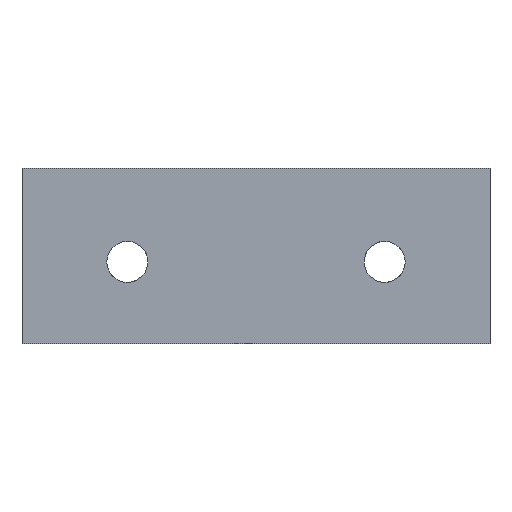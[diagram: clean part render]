
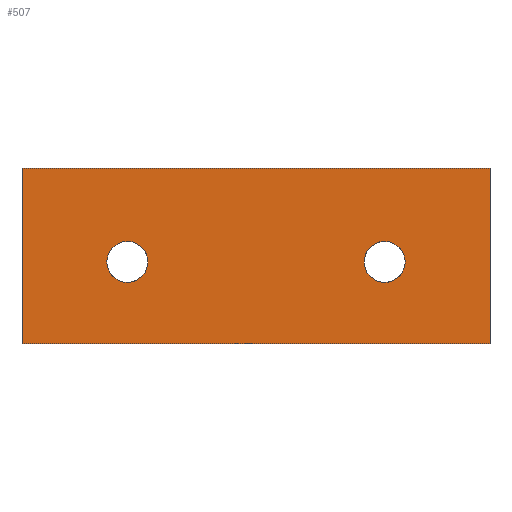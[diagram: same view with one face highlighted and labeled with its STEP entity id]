
A CAD part, left-side view. The second image highlights one B-rep face of the part: STEP entity #507.
In plain terms, the highlighted planar face has unit normal (-1, 0, 0).
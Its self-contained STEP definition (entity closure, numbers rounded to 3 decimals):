
#265=CARTESIAN_POINT('Vertex',(0.,200.,0.)) ;
#272=CARTESIAN_POINT('Vertex',(0.,0.,0.)) ;
#275=CARTESIAN_POINT('Line Origine',(0.,100.,0.)) ;
#292=CARTESIAN_POINT('Line Origine',(0.,200.,37.5)) ;
#296=CARTESIAN_POINT('Vertex',(0.,200.,75.)) ;
#316=CARTESIAN_POINT('Line Origine',(0.,100.,75.)) ;
#320=CARTESIAN_POINT('Vertex',(0.,0.,75.)) ;
#340=CARTESIAN_POINT('Line Origine',(0.,0.,37.5)) ;
#361=CARTESIAN_POINT('Vertex',(0.,155.,43.75)) ;
#364=CARTESIAN_POINT('Axis2P3D Location',(0.,155.,35.)) ;
#368=CARTESIAN_POINT('Vertex',(0.,163.75,35.)) ;
#371=CARTESIAN_POINT('Axis2P3D Location',(0.,155.,35.)) ;
#375=CARTESIAN_POINT('Vertex',(0.,155.,26.25)) ;
#397=CARTESIAN_POINT('Axis2P3D Location',(0.,155.,35.)) ;
#401=CARTESIAN_POINT('Vertex',(0.,146.25,35.)) ;
#404=CARTESIAN_POINT('Axis2P3D Location',(0.,155.,35.)) ;
#427=CARTESIAN_POINT('Vertex',(0.,45.,43.75)) ;
#430=CARTESIAN_POINT('Axis2P3D Location',(0.,45.,35.)) ;
#434=CARTESIAN_POINT('Vertex',(0.,53.75,35.)) ;
#437=CARTESIAN_POINT('Axis2P3D Location',(0.,45.,35.)) ;
#441=CARTESIAN_POINT('Vertex',(0.,45.,26.25)) ;
#463=CARTESIAN_POINT('Axis2P3D Location',(0.,45.,35.)) ;
#467=CARTESIAN_POINT('Vertex',(0.,36.25,35.)) ;
#470=CARTESIAN_POINT('Axis2P3D Location',(0.,45.,35.)) ;
#484=CARTESIAN_POINT('Axis2P3D Location',(0.,200.,75.)) ;
#276=DIRECTION('Vector Direction',(0.,-1.,0.)) ;
#293=DIRECTION('Vector Direction',(0.,0.,-1.)) ;
#317=DIRECTION('Vector Direction',(0.,-1.,0.)) ;
#341=DIRECTION('Vector Direction',(0.,0.,-1.)) ;
#365=DIRECTION('Axis2P3D Direction',(-1.,-0.,0.)) ;
#372=DIRECTION('Axis2P3D Direction',(-1.,-0.,0.)) ;
#398=DIRECTION('Axis2P3D Direction',(-1.,-0.,-0.)) ;
#405=DIRECTION('Axis2P3D Direction',(-1.,-0.,-0.)) ;
#431=DIRECTION('Axis2P3D Direction',(-1.,-0.,0.)) ;
#438=DIRECTION('Axis2P3D Direction',(-1.,-0.,0.)) ;
#464=DIRECTION('Axis2P3D Direction',(-1.,-0.,-0.)) ;
#471=DIRECTION('Axis2P3D Direction',(-1.,-0.,-0.)) ;
#485=DIRECTION('Axis2P3D Direction',(1.,0.,-0.)) ;
#486=DIRECTION('Axis2P3D XDirection',(-0.,0.,-1.)) ;
#366=AXIS2_PLACEMENT_3D('Circle Axis2P3D',#364,#365,$) ;
#373=AXIS2_PLACEMENT_3D('Circle Axis2P3D',#371,#372,$) ;
#399=AXIS2_PLACEMENT_3D('Circle Axis2P3D',#397,#398,$) ;
#406=AXIS2_PLACEMENT_3D('Circle Axis2P3D',#404,#405,$) ;
#432=AXIS2_PLACEMENT_3D('Circle Axis2P3D',#430,#431,$) ;
#439=AXIS2_PLACEMENT_3D('Circle Axis2P3D',#437,#438,$) ;
#465=AXIS2_PLACEMENT_3D('Circle Axis2P3D',#463,#464,$) ;
#472=AXIS2_PLACEMENT_3D('Circle Axis2P3D',#470,#471,$) ;
#487=AXIS2_PLACEMENT_3D('Plane Axis2P3D',#484,#485,#486) ;
#490=ORIENTED_EDGE('',*,*,#279,.T.) ;
#491=ORIENTED_EDGE('',*,*,#344,.F.) ;
#492=ORIENTED_EDGE('',*,*,#322,.F.) ;
#493=ORIENTED_EDGE('',*,*,#298,.T.) ;
#496=ORIENTED_EDGE('',*,*,#370,.T.) ;
#497=ORIENTED_EDGE('',*,*,#408,.T.) ;
#498=ORIENTED_EDGE('',*,*,#403,.T.) ;
#499=ORIENTED_EDGE('',*,*,#377,.T.) ;
#502=ORIENTED_EDGE('',*,*,#436,.T.) ;
#503=ORIENTED_EDGE('',*,*,#474,.T.) ;
#504=ORIENTED_EDGE('',*,*,#469,.T.) ;
#505=ORIENTED_EDGE('',*,*,#443,.T.) ;
#500=FACE_BOUND('',#495,.T.) ;
#506=FACE_BOUND('',#501,.T.) ;
#277=VECTOR('Line Direction',#276,1.) ;
#294=VECTOR('Line Direction',#293,1.) ;
#318=VECTOR('Line Direction',#317,1.) ;
#342=VECTOR('Line Direction',#341,1.) ;
#507=ADVANCED_FACE('A612-075-200',(#494,#500,#506),#488,.F.) ;
#367=CIRCLE('generated circle',#366,8.75) ;
#374=CIRCLE('generated circle',#373,8.75) ;
#400=CIRCLE('generated circle',#399,8.75) ;
#407=CIRCLE('generated circle',#406,8.75) ;
#433=CIRCLE('generated circle',#432,8.75) ;
#440=CIRCLE('generated circle',#439,8.75) ;
#466=CIRCLE('generated circle',#465,8.75) ;
#473=CIRCLE('generated circle',#472,8.75) ;
#279=EDGE_CURVE('',#266,#273,#278,.T.) ;
#298=EDGE_CURVE('',#297,#266,#295,.T.) ;
#322=EDGE_CURVE('',#297,#321,#319,.T.) ;
#344=EDGE_CURVE('',#321,#273,#343,.T.) ;
#370=EDGE_CURVE('',#369,#362,#367,.F.) ;
#377=EDGE_CURVE('',#376,#369,#374,.F.) ;
#403=EDGE_CURVE('',#402,#376,#400,.F.) ;
#408=EDGE_CURVE('',#362,#402,#407,.F.) ;
#436=EDGE_CURVE('',#435,#428,#433,.F.) ;
#443=EDGE_CURVE('',#442,#435,#440,.F.) ;
#469=EDGE_CURVE('',#468,#442,#466,.F.) ;
#474=EDGE_CURVE('',#428,#468,#473,.F.) ;
#489=EDGE_LOOP('',(#490,#491,#492,#493)) ;
#495=EDGE_LOOP('',(#496,#497,#498,#499)) ;
#501=EDGE_LOOP('',(#502,#503,#504,#505)) ;
#494=FACE_OUTER_BOUND('',#489,.T.) ;
#278=LINE('Line',#275,#277) ;
#295=LINE('Line',#292,#294) ;
#319=LINE('Line',#316,#318) ;
#343=LINE('Line',#340,#342) ;
#488=PLANE('Plane',#487) ;
#266=VERTEX_POINT('',#265) ;
#273=VERTEX_POINT('',#272) ;
#297=VERTEX_POINT('',#296) ;
#321=VERTEX_POINT('',#320) ;
#362=VERTEX_POINT('',#361) ;
#369=VERTEX_POINT('',#368) ;
#376=VERTEX_POINT('',#375) ;
#402=VERTEX_POINT('',#401) ;
#428=VERTEX_POINT('',#427) ;
#435=VERTEX_POINT('',#434) ;
#442=VERTEX_POINT('',#441) ;
#468=VERTEX_POINT('',#467) ;
